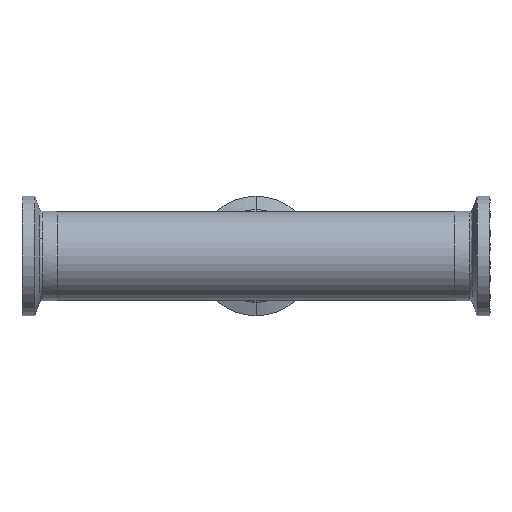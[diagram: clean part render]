
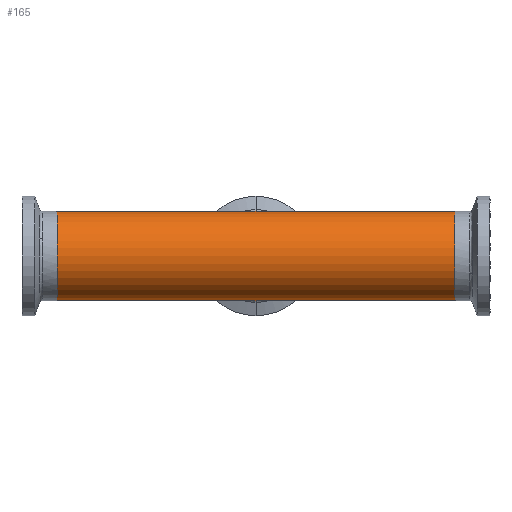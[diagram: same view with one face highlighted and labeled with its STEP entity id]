
A CAD part, front view. The second image highlights one B-rep face of the part: STEP entity #165.
In plain terms, the highlighted cylindrical face has radius 12.7 mm (diameter 25.4 mm), a partial arc.
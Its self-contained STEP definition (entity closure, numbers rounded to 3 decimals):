
#142 = DIRECTION ( 'NONE',  ( -1., 0., 0. ) ) ;
#165 = ADVANCED_FACE ( 'NONE', ( #1430 ), #2500, .T. ) ;
#208 = ORIENTED_EDGE ( 'NONE', *, *, #1320, .T. ) ;
#222 = AXIS2_PLACEMENT_3D ( 'NONE', #520, #2043, #764 ) ;
#335 = ORIENTED_EDGE ( 'NONE', *, *, #1419, .T. ) ;
#340 = VERTEX_POINT ( 'NONE', #2276 ) ;
#412 = VERTEX_POINT ( 'NONE', #998 ) ;
#473 = DIRECTION ( 'NONE',  ( -1., 0., 0. ) ) ;
#489 = CARTESIAN_POINT ( 'NONE',  ( 92.621, 0., -12.7 ) ) ;
#520 = CARTESIAN_POINT ( 'NONE',  ( -56.7, 0., 0. ) ) ;
#581 = CARTESIAN_POINT ( 'NONE',  ( -56.7, 0., -12.7 ) ) ;
#585 = VECTOR ( 'NONE', #723, 1000. ) ;
#630 = VECTOR ( 'NONE', #1627, 1000. ) ;
#723 = DIRECTION ( 'NONE',  ( -1., 0., 0. ) ) ;
#727 = LINE ( 'NONE', #1801, #801 ) ;
#758 = VERTEX_POINT ( 'NONE', #2418 ) ;
#764 = DIRECTION ( 'NONE',  ( 0., 0., 1. ) ) ;
#801 = VECTOR ( 'NONE', #2017, 1000. ) ;
#804 = ORIENTED_EDGE ( 'NONE', *, *, #1750, .T. ) ;
#902 = VECTOR ( 'NONE', #473, 1000. ) ;
#991 = EDGE_CURVE ( 'NONE', #340, #412, #2167, .T. ) ;
#998 = CARTESIAN_POINT ( 'NONE',  ( 56.7, 0., 12.7 ) ) ;
#1107 = LINE ( 'NONE', #2420, #902 ) ;
#1151 = EDGE_CURVE ( 'NONE', #2113, #2689, #2336, .T. ) ;
#1303 = ORIENTED_EDGE ( 'NONE', *, *, #1351, .F. ) ;
#1320 = EDGE_CURVE ( 'NONE', #412, #2239, #727, .T. ) ;
#1351 = EDGE_CURVE ( 'NONE', #340, #2113, #2296, .T. ) ;
#1407 = AXIS2_PLACEMENT_3D ( 'NONE', #1889, #142, #1486 ) ;
#1419 = EDGE_CURVE ( 'NONE', #758, #2689, #1594, .T. ) ;
#1430 = FACE_OUTER_BOUND ( 'NONE', #2038, .T. ) ;
#1486 = DIRECTION ( 'NONE',  ( 0., 0., 1. ) ) ;
#1499 = ORIENTED_EDGE ( 'NONE', *, *, #1151, .F. ) ;
#1594 = CIRCLE ( 'NONE', #222, 12.7 ) ;
#1627 = DIRECTION ( 'NONE',  ( -1., 0., 0. ) ) ;
#1717 = CARTESIAN_POINT ( 'NONE',  ( 56.7, 0., 0. ) ) ;
#1725 = CARTESIAN_POINT ( 'NONE',  ( 0., 0., -12.7 ) ) ;
#1750 = EDGE_CURVE ( 'NONE', #2239, #758, #1107, .T. ) ;
#1801 = CARTESIAN_POINT ( 'NONE',  ( 92.621, 0., 12.7 ) ) ;
#1871 = DIRECTION ( 'NONE',  ( -1., 0., 0. ) ) ;
#1889 = CARTESIAN_POINT ( 'NONE',  ( 92.621, 0., 0. ) ) ;
#1901 = DIRECTION ( 'NONE',  ( 0., 0., 1. ) ) ;
#1992 = AXIS2_PLACEMENT_3D ( 'NONE', #1717, #1871, #1901 ) ;
#2017 = DIRECTION ( 'NONE',  ( -1., 0., 0. ) ) ;
#2038 = EDGE_LOOP ( 'NONE', ( #1303, #2431, #208, #804, #335, #1499 ) ) ;
#2043 = DIRECTION ( 'NONE',  ( 1., 0., 0. ) ) ;
#2113 = VERTEX_POINT ( 'NONE', #1725 ) ;
#2167 = CIRCLE ( 'NONE', #1992, 12.7 ) ;
#2239 = VERTEX_POINT ( 'NONE', #2438 ) ;
#2264 = CARTESIAN_POINT ( 'NONE',  ( 92.621, 0., -12.7 ) ) ;
#2276 = CARTESIAN_POINT ( 'NONE',  ( 56.7, 0., -12.7 ) ) ;
#2296 = LINE ( 'NONE', #489, #585 ) ;
#2336 = LINE ( 'NONE', #2264, #630 ) ;
#2418 = CARTESIAN_POINT ( 'NONE',  ( -56.7, 0., 12.7 ) ) ;
#2420 = CARTESIAN_POINT ( 'NONE',  ( 92.621, 0., 12.7 ) ) ;
#2431 = ORIENTED_EDGE ( 'NONE', *, *, #991, .T. ) ;
#2438 = CARTESIAN_POINT ( 'NONE',  ( 0., 0., 12.7 ) ) ;
#2500 = CYLINDRICAL_SURFACE ( 'NONE', #1407, 12.7 ) ;
#2689 = VERTEX_POINT ( 'NONE', #581 ) ;
